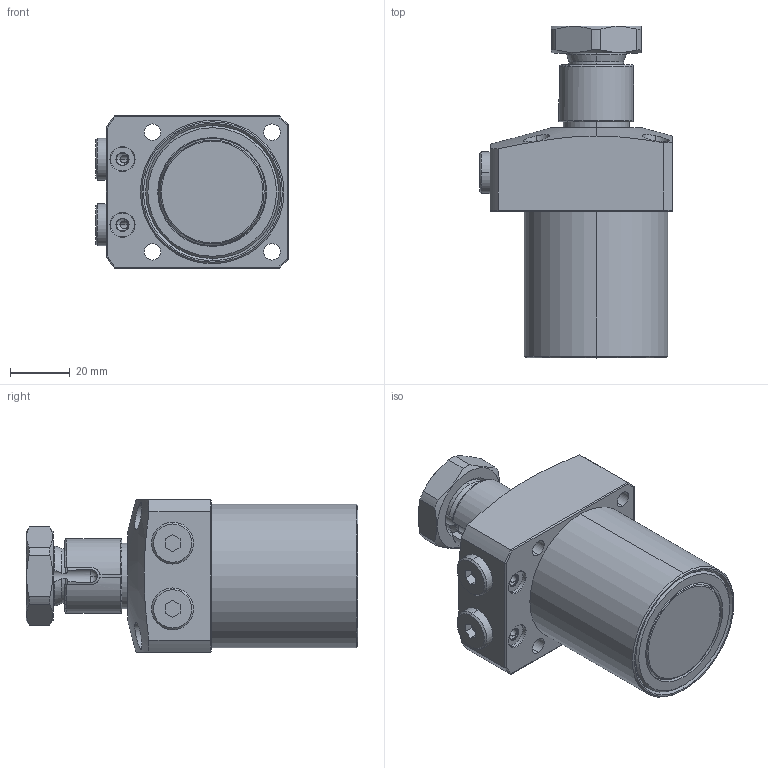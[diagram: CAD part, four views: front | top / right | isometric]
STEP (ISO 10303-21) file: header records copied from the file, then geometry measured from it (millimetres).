
FILE_DESCRIPTION (( 'STEP AP203' ), '1' );
FILE_NAME ('20360-CL.step', '2019-06-24T02:58:04', ( '微软用户' ), ( '微软中国' ), 'SwSTEP 2.0', 'SolidWorks 2014', '' );
FILE_SCHEMA (( 'CONFIG_CONTROL_DESIGN' ));
Length unit declared in the file: millimetre
Products named in the file (7): 20360-CL; 20360-1^20360-CL; 20360-2^20360-CL; 20360-3^20360-CL; 20360-4^20360-CL; 20360-5^20360-CL; 20360-C-P-4^20360-CL
Assembly tree (7 placements, depth 2):
  20360-CL
    20360-1^20360-CL
    20360-2^20360-CL
    20360-3^20360-CL
    20360-4^20360-CL
    20360-5^20360-CL
    20360-C-P-4^20360-CL  x2
Bounding box: 64.5 x 111 x 51 mm (x, y, z)
Volume: 188301.5 mm3; surface area: 35133.6 mm2
Topology: 7 solids, 7 shells, 228 faces, 537 edges, 339 vertices
Faces by surface type: plane 78, cylinder 77, cone 55, torus 16, sphere 2
Entity records: 7744 total; most frequent: CARTESIAN_POINT 1985, DIRECTION 1087, ORIENTED_EDGE 1014, EDGE_CURVE 507, AXIS2_PLACEMENT_3D 443, VERTEX_POINT 321, EDGE_LOOP 246, CIRCLE 218
